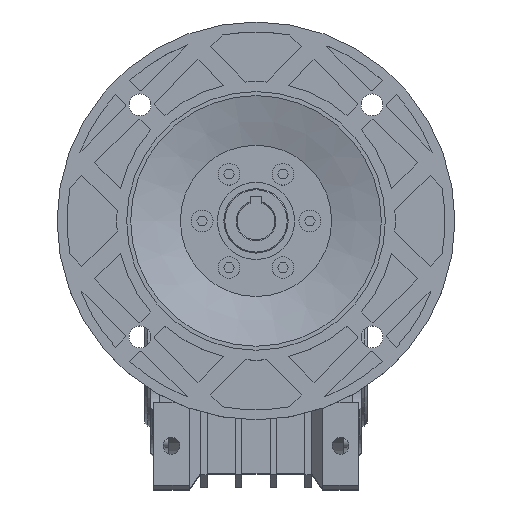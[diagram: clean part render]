
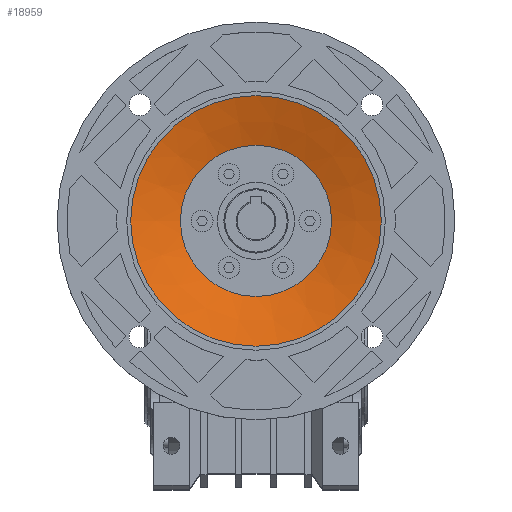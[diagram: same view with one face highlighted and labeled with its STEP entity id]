
A CAD part, top view. The second image highlights one B-rep face of the part: STEP entity #18959.
In plain terms, the highlighted conical face has half-angle 73.301 degrees and reference radius 38 mm.
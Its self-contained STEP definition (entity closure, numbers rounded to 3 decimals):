
#105=CONICAL_SURFACE('',#20576,38.,1.279);
#1398=FACE_OUTER_BOUND('',#2542,.T.);
#2542=EDGE_LOOP('',(#15403,#15404,#15405,#15406));
#4226=LINE('',#30652,#6008);
#6008=VECTOR('',#25086,38.);
#6940=CIRCLE('',#20563,38.);
#6950=CIRCLE('',#20577,63.);
#8443=VERTEX_POINT('',#30624);
#8453=VERTEX_POINT('',#30651);
#10824=EDGE_CURVE('',#8443,#8443,#6940,.T.);
#10837=EDGE_CURVE('',#8443,#8453,#4226,.T.);
#10838=EDGE_CURVE('',#8453,#8453,#6950,.T.);
#15403=ORIENTED_EDGE('',*,*,#10824,.T.);
#15404=ORIENTED_EDGE('',*,*,#10837,.T.);
#15405=ORIENTED_EDGE('',*,*,#10838,.F.);
#15406=ORIENTED_EDGE('',*,*,#10837,.F.);
#18959=ADVANCED_FACE('',(#1398),#105,.F.);
#20563=AXIS2_PLACEMENT_3D('',#30625,#25055,#25056);
#20576=AXIS2_PLACEMENT_3D('',#30650,#25084,#25085);
#20577=AXIS2_PLACEMENT_3D('',#30653,#25087,#25088);
#25055=DIRECTION('center_axis',(0.,0.,
-1.));
#25056=DIRECTION('ref_axis',(-1.,0.,0.));
#25084=DIRECTION('center_axis',(0.,0.,
1.));
#25085=DIRECTION('ref_axis',(1.,0.,0.));
#25086=DIRECTION('',(-0.958,0.,0.287));
#25087=DIRECTION('center_axis',(0.,0.,
-1.));
#25088=DIRECTION('ref_axis',(-1.,0.,0.));
#30624=CARTESIAN_POINT('',(289.449,147.109,242.34));
#30625=CARTESIAN_POINT('Origin',(327.449,147.109,242.34));
#30650=CARTESIAN_POINT('Origin',(327.449,147.109,242.34));
#30651=CARTESIAN_POINT('',(264.449,147.109,249.84));
#30652=CARTESIAN_POINT('',(289.449,147.109,242.34));
#30653=CARTESIAN_POINT('Origin',(327.449,147.109,249.84));
